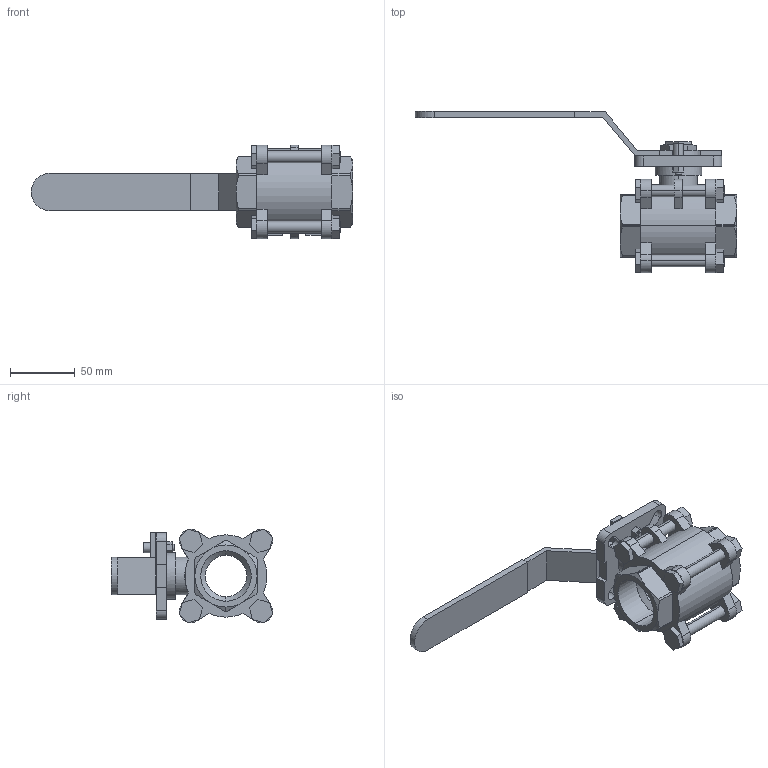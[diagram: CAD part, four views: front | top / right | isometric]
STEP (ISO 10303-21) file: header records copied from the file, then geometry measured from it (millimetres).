
FILE_DESCRIPTION (( 'STEP AP203' ), '1' );
FILE_NAME ('C3.622I032IFVPB0.STEP', '2018-10-12T14:43:49', ( '' ), ( '' ), 'SwSTEP 2.0', 'SolidWorks 2014', '' );
FILE_SCHEMA (( 'CONFIG_CONTROL_DESIGN' ));
Length unit declared in the file: millimetre
Products named in the file (1): C3.622I032IFVPB0
Bounding box: 248 x 124.53 x 72.09 mm (x, y, z)
Volume: 275240.2 mm3; surface area: 72518.6 mm2
Topology: 1 solids, 1 shells, 332 faces, 857 edges, 543 vertices
Faces by surface type: plane 231, cylinder 83, cone 18
Entity records: 10333 total; most frequent: CARTESIAN_POINT 1995, DIRECTION 1726, ORIENTED_EDGE 1714, EDGE_CURVE 857, LINE 594, VECTOR 594, AXIS2_PLACEMENT_3D 566, VERTEX_POINT 543
